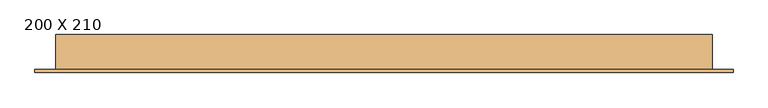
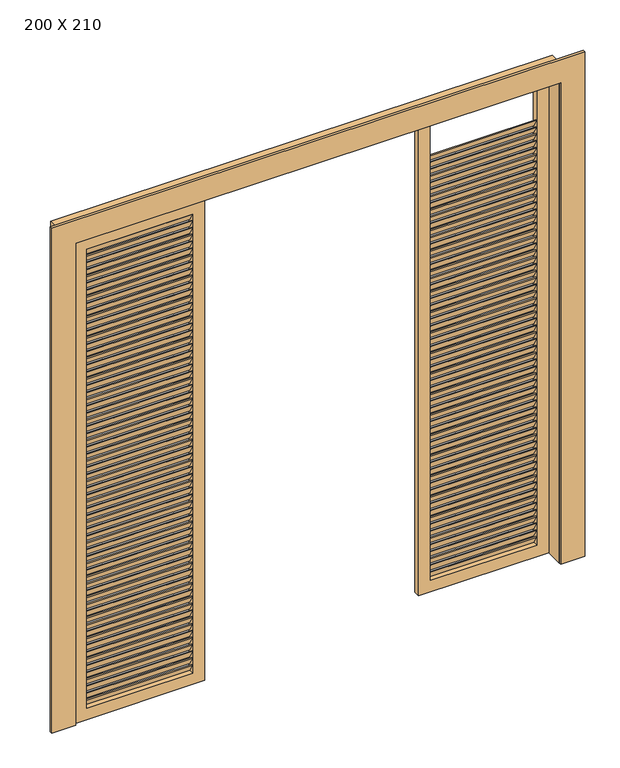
"""IFC4 building model written with IfcOpenShell, lengths in millimetres: door geometry, PORTA VENEZIANA DE CORRER - 4 FOLHAS : 200 X 210."""

from ifc_helpers import new_model, si_unit, frame, origin, place, context, project, spatial, polyline, outline, extrude, source, transform, mapped, element, save


def door_200_x_210_0d7408c9(model_context):
    return source(origin(), model_context, "Body", "SweptSolid", [
        extrude(outline(polyline([(21.9958714, 1866.1363636), (1.9958714, 1901.1363636), (6.9958714, 1901.1363636), (26.9958714, 1866.1363636), (21.9958714, 1866.1363636)])), frame((695.6608739, 0.0, 0.0), z_axis=(1.0, 0.0, 0.0), x_axis=(0.0, 1.0, 0.0)), (0.0, 0.0, 1.0), 437.5),
        extrude(outline(polyline([(21.9958714, 1836.3636364), (1.9958714, 1871.3636364), (6.9958714, 1871.3636364), (26.9958714, 1836.3636364), (21.9958714, 1836.3636364)])), frame((695.6608739, 0.0, 0.0), z_axis=(1.0, 0.0, 0.0), x_axis=(0.0, 1.0, 0.0)), (0.0, 0.0, 1.0), 437.5),
        extrude(outline(polyline([(21.9958714, 1806.5909091), (1.9958714, 1841.5909091), (6.9958714, 1841.5909091), (26.9958714, 1806.5909091), (21.9958714, 1806.5909091)])), frame((695.6608739, 0.0, 0.0), z_axis=(1.0, 0.0, 0.0), x_axis=(0.0, 1.0, 0.0)), (0.0, 0.0, 1.0), 437.5),
        extrude(outline(polyline([(21.9958714, 1776.8181818), (1.9958714, 1811.8181818), (6.9958714, 1811.8181818), (26.9958714, 1776.8181818), (21.9958714, 1776.8181818)])), frame((695.6608739, 0.0, 0.0), z_axis=(1.0, 0.0, 0.0), x_axis=(0.0, 1.0, 0.0)), (0.0, 0.0, 1.0), 437.5),
        extrude(outline(polyline([(21.9958714, 1747.0454545), (1.9958714, 1782.0454545), (6.9958714, 1782.0454545), (26.9958714, 1747.0454545), (21.9958714, 1747.0454545)])), frame((695.6608739, 0.0, 0.0), z_axis=(1.0, 0.0, 0.0), x_axis=(0.0, 1.0, 0.0)), (0.0, 0.0, 1.0), 437.5),
        extrude(outline(polyline([(21.9958714, 1717.2727273), (1.9958714, 1752.2727273), (6.9958714, 1752.2727273), (26.9958714, 1717.2727273), (21.9958714, 1717.2727273)])), frame((695.6608739, 0.0, 0.0), z_axis=(1.0, 0.0, 0.0), x_axis=(0.0, 1.0, 0.0)), (0.0, 0.0, 1.0), 437.5),
        extrude(outline(polyline([(21.9958714, 1687.5), (1.9958714, 1722.5), (6.9958714, 1722.5), (26.9958714, 1687.5), (21.9958714, 1687.5)])), frame((695.6608739, 0.0, 0.0), z_axis=(1.0, 0.0, 0.0), x_axis=(0.0, 1.0, 0.0)), (0.0, 0.0, 1.0), 437.5),
        extrude(outline(polyline([(21.9958714, 1657.7272727), (1.9958714, 1692.7272727), (6.9958714, 1692.7272727), (26.9958714, 1657.7272727), (21.9958714, 1657.7272727)])), frame((695.6608739, 0.0, 0.0), z_axis=(1.0, 0.0, 0.0), x_axis=(0.0, 1.0, 0.0)), (0.0, 0.0, 1.0), 437.5),
        extrude(outline(polyline([(21.9958714, 1627.9545455), (1.9958714, 1662.9545455), (6.9958714, 1662.9545455), (26.9958714, 1627.9545455), (21.9958714, 1627.9545455)])), frame((695.6608739, 0.0, 0.0), z_axis=(1.0, 0.0, 0.0), x_axis=(0.0, 1.0, 0.0)), (0.0, 0.0, 1.0), 437.5),
        extrude(outline(polyline([(21.9958714, 1598.1818182), (1.9958714, 1633.1818182), (6.9958714, 1633.1818182), (26.9958714, 1598.1818182), (21.9958714, 1598.1818182)])), frame((695.6608739, 0.0, 0.0), z_axis=(1.0, 0.0, 0.0), x_axis=(0.0, 1.0, 0.0)), (0.0, 0.0, 1.0), 437.5),
        extrude(outline(polyline([(21.9958714, 1568.4090909), (1.9958714, 1603.4090909), (6.9958714, 1603.4090909), (26.9958714, 1568.4090909), (21.9958714, 1568.4090909)])), frame((695.6608739, 0.0, 0.0), z_axis=(1.0, 0.0, 0.0), x_axis=(0.0, 1.0, 0.0)), (0.0, 0.0, 1.0), 437.5),
        extrude(outline(polyline([(21.9958714, 1538.6363636), (1.9958714, 1573.6363636), (6.9958714, 1573.6363636), (26.9958714, 1538.6363636), (21.9958714, 1538.6363636)])), frame((695.6608739, 0.0, 0.0), z_axis=(1.0, 0.0, 0.0), x_axis=(0.0, 1.0, 0.0)), (0.0, 0.0, 1.0), 437.5),
        extrude(outline(polyline([(21.9958714, 1508.8636364), (1.9958714, 1543.8636364), (6.9958714, 1543.8636364), (26.9958714, 1508.8636364), (21.9958714, 1508.8636364)])), frame((695.6608739, 0.0, 0.0), z_axis=(1.0, 0.0, 0.0), x_axis=(0.0, 1.0, 0.0)), (0.0, 0.0, 1.0), 437.5),
        extrude(outline(polyline([(21.9958714, 1479.0909091), (1.9958714, 1514.0909091), (6.9958714, 1514.0909091), (26.9958714, 1479.0909091), (21.9958714, 1479.0909091)])), frame((695.6608739, 0.0, 0.0), z_axis=(1.0, 0.0, 0.0), x_axis=(0.0, 1.0, 0.0)), (0.0, 0.0, 1.0), 437.5),
        extrude(outline(polyline([(21.9958714, 1449.3181818), (1.9958714, 1484.3181818), (6.9958714, 1484.3181818), (26.9958714, 1449.3181818), (21.9958714, 1449.3181818)])), frame((695.6608739, 0.0, 0.0), z_axis=(1.0, 0.0, 0.0), x_axis=(0.0, 1.0, 0.0)), (0.0, 0.0, 1.0), 437.5),
        extrude(outline(polyline([(21.9958714, 1419.5454545), (1.9958714, 1454.5454545), (6.9958714, 1454.5454545), (26.9958714, 1419.5454545), (21.9958714, 1419.5454545)])), frame((695.6608739, 0.0, 0.0), z_axis=(1.0, 0.0, 0.0), x_axis=(0.0, 1.0, 0.0)), (0.0, 0.0, 1.0), 437.5),
        extrude(outline(polyline([(21.9958714, 1389.7727273), (1.9958714, 1424.7727273), (6.9958714, 1424.7727273), (26.9958714, 1389.7727273), (21.9958714, 1389.7727273)])), frame((695.6608739, 0.0, 0.0), z_axis=(1.0, 0.0, 0.0), x_axis=(0.0, 1.0, 0.0)), (0.0, 0.0, 1.0), 437.5),
        extrude(outline(polyline([(21.9958714, 1360.0), (1.9958714, 1395.0), (6.9958714, 1395.0), (26.9958714, 1360.0), (21.9958714, 1360.0)])), frame((695.6608739, 0.0, 0.0), z_axis=(1.0, 0.0, 0.0), x_axis=(0.0, 1.0, 0.0)), (0.0, 0.0, 1.0), 437.5),
        extrude(outline(polyline([(21.9958714, 1330.2272727), (1.9958714, 1365.2272727), (6.9958714, 1365.2272727), (26.9958714, 1330.2272727), (21.9958714, 1330.2272727)])), frame((695.6608739, 0.0, 0.0), z_axis=(1.0, 0.0, 0.0), x_axis=(0.0, 1.0, 0.0)), (0.0, 0.0, 1.0), 437.5),
        extrude(outline(polyline([(21.9958714, 1300.4545455), (1.9958714, 1335.4545455), (6.9958714, 1335.4545455), (26.9958714, 1300.4545455), (21.9958714, 1300.4545455)])), frame((695.6608739, 0.0, 0.0), z_axis=(1.0, 0.0, 0.0), x_axis=(0.0, 1.0, 0.0)), (0.0, 0.0, 1.0), 437.5),
        extrude(outline(polyline([(21.9958714, 1270.6818182), (1.9958714, 1305.6818182), (6.9958714, 1305.6818182), (26.9958714, 1270.6818182), (21.9958714, 1270.6818182)])), frame((695.6608739, 0.0, 0.0), z_axis=(1.0, 0.0, 0.0), x_axis=(0.0, 1.0, 0.0)), (0.0, 0.0, 1.0), 437.5),
        extrude(outline(polyline([(21.9958714, 1240.9090909), (1.9958714, 1275.9090909), (6.9958714, 1275.9090909), (26.9958714, 1240.9090909), (21.9958714, 1240.9090909)])), frame((695.6608739, 0.0, 0.0), z_axis=(1.0, 0.0, 0.0), x_axis=(0.0, 1.0, 0.0)), (0.0, 0.0, 1.0), 437.5),
        extrude(outline(polyline([(21.9958714, 1211.1363636), (1.9958714, 1246.1363636), (6.9958714, 1246.1363636), (26.9958714, 1211.1363636), (21.9958714, 1211.1363636)])), frame((695.6608739, 0.0, 0.0), z_axis=(1.0, 0.0, 0.0), x_axis=(0.0, 1.0, 0.0)), (0.0, 0.0, 1.0), 437.5),
        extrude(outline(polyline([(21.9958714, 1181.3636364), (1.9958714, 1216.3636364), (6.9958714, 1216.3636364), (26.9958714, 1181.3636364), (21.9958714, 1181.3636364)])), frame((695.6608739, 0.0, 0.0), z_axis=(1.0, 0.0, 0.0), x_axis=(0.0, 1.0, 0.0)), (0.0, 0.0, 1.0), 437.5),
        extrude(outline(polyline([(21.9958714, 1151.5909091), (1.9958714, 1186.5909091), (6.9958714, 1186.5909091), (26.9958714, 1151.5909091), (21.9958714, 1151.5909091)])), frame((695.6608739, 0.0, 0.0), z_axis=(1.0, 0.0, 0.0), x_axis=(0.0, 1.0, 0.0)), (0.0, 0.0, 1.0), 437.5),
        extrude(outline(polyline([(21.9958714, 1121.8181818), (1.9958714, 1156.8181818), (6.9958714, 1156.8181818), (26.9958714, 1121.8181818), (21.9958714, 1121.8181818)])), frame((695.6608739, 0.0, 0.0), z_axis=(1.0, 0.0, 0.0), x_axis=(0.0, 1.0, 0.0)), (0.0, 0.0, 1.0), 437.5),
        extrude(outline(polyline([(21.9958714, 1092.0454545), (1.9958714, 1127.0454545), (6.9958714, 1127.0454545), (26.9958714, 1092.0454545), (21.9958714, 1092.0454545)])), frame((695.6608739, 0.0, 0.0), z_axis=(1.0, 0.0, 0.0), x_axis=(0.0, 1.0, 0.0)), (0.0, 0.0, 1.0), 437.5),
        extrude(outline(polyline([(21.9958714, 1062.2727273), (1.9958714, 1097.2727273), (6.9958714, 1097.2727273), (26.9958714, 1062.2727273), (21.9958714, 1062.2727273)])), frame((695.6608739, 0.0, 0.0), z_axis=(1.0, 0.0, 0.0), x_axis=(0.0, 1.0, 0.0)), (0.0, 0.0, 1.0), 437.5),
        extrude(outline(polyline([(21.9958714, 1032.5), (1.9958714, 1067.5), (6.9958714, 1067.5), (26.9958714, 1032.5), (21.9958714, 1032.5)])), frame((695.6608739, 0.0, 0.0), z_axis=(1.0, 0.0, 0.0), x_axis=(0.0, 1.0, 0.0)), (0.0, 0.0, 1.0), 437.5),
        extrude(outline(polyline([(21.9958714, 1002.7272727), (1.9958714, 1037.7272727), (6.9958714, 1037.7272727), (26.9958714, 1002.7272727), (21.9958714, 1002.7272727)])), frame((695.6608739, 0.0, 0.0), z_axis=(1.0, 0.0, 0.0), x_axis=(0.0, 1.0, 0.0)), (0.0, 0.0, 1.0), 437.5),
        extrude(outline(polyline([(21.9958714, 972.9545455), (1.9958714, 1007.9545455), (6.9958714, 1007.9545455), (26.9958714, 972.9545455), (21.9958714, 972.9545455)])), frame((695.6608739, 0.0, 0.0), z_axis=(1.0, 0.0, 0.0), x_axis=(0.0, 1.0, 0.0)), (0.0, 0.0, 1.0), 437.5),
        extrude(outline(polyline([(21.9958714, 943.1818182), (1.9958714, 978.1818182), (6.9958714, 978.1818182), (26.9958714, 943.1818182), (21.9958714, 943.1818182)])), frame((695.6608739, 0.0, 0.0), z_axis=(1.0, 0.0, 0.0), x_axis=(0.0, 1.0, 0.0)), (0.0, 0.0, 1.0), 437.5),
        extrude(outline(polyline([(21.9958714, 913.4090909), (1.9958714, 948.4090909), (6.9958714, 948.4090909), (26.9958714, 913.4090909), (21.9958714, 913.4090909)])), frame((695.6608739, 0.0, 0.0), z_axis=(1.0, 0.0, 0.0), x_axis=(0.0, 1.0, 0.0)), (0.0, 0.0, 1.0), 437.5),
        extrude(outline(polyline([(21.9958714, 883.6363636), (1.9958714, 918.6363636), (6.9958714, 918.6363636), (26.9958714, 883.6363636), (21.9958714, 883.6363636)])), frame((695.6608739, 0.0, 0.0), z_axis=(1.0, 0.0, 0.0), x_axis=(0.0, 1.0, 0.0)), (0.0, 0.0, 1.0), 437.5),
        extrude(outline(polyline([(21.9958714, 853.8636364), (1.9958714, 888.8636364), (6.9958714, 888.8636364), (26.9958714, 853.8636364), (21.9958714, 853.8636364)])), frame((695.6608739, 0.0, 0.0), z_axis=(1.0, 0.0, 0.0), x_axis=(0.0, 1.0, 0.0)), (0.0, 0.0, 1.0), 437.5),
        extrude(outline(polyline([(21.9958714, 824.0909091), (1.9958714, 859.0909091), (6.9958714, 859.0909091), (26.9958714, 824.0909091), (21.9958714, 824.0909091)])), frame((695.6608739, 0.0, 0.0), z_axis=(1.0, 0.0, 0.0), x_axis=(0.0, 1.0, 0.0)), (0.0, 0.0, 1.0), 437.5),
        extrude(outline(polyline([(21.9958714, 794.3181818), (1.9958714, 829.3181818), (6.9958714, 829.3181818), (26.9958714, 794.3181818), (21.9958714, 794.3181818)])), frame((695.6608739, 0.0, 0.0), z_axis=(1.0, 0.0, 0.0), x_axis=(0.0, 1.0, 0.0)), (0.0, 0.0, 1.0), 437.5),
        extrude(outline(polyline([(21.9958714, 764.5454545), (1.9958714, 799.5454545), (6.9958714, 799.5454545), (26.9958714, 764.5454545), (21.9958714, 764.5454545)])), frame((695.6608739, 0.0, 0.0), z_axis=(1.0, 0.0, 0.0), x_axis=(0.0, 1.0, 0.0)), (0.0, 0.0, 1.0), 437.5),
        extrude(outline(polyline([(21.9958714, 734.7727273), (1.9958714, 769.7727273), (6.9958714, 769.7727273), (26.9958714, 734.7727273), (21.9958714, 734.7727273)])), frame((695.6608739, 0.0, 0.0), z_axis=(1.0, 0.0, 0.0), x_axis=(0.0, 1.0, 0.0)), (0.0, 0.0, 1.0), 437.5),
        extrude(outline(polyline([(21.9958714, 705.0), (1.9958714, 740.0), (6.9958714, 740.0), (26.9958714, 705.0), (21.9958714, 705.0)])), frame((695.6608739, 0.0, 0.0), z_axis=(1.0, 0.0, 0.0), x_axis=(0.0, 1.0, 0.0)), (0.0, 0.0, 1.0), 437.5),
        extrude(outline(polyline([(21.9958714, 675.2272727), (1.9958714, 710.2272727), (6.9958714, 710.2272727), (26.9958714, 675.2272727), (21.9958714, 675.2272727)])), frame((695.6608739, 0.0, 0.0), z_axis=(1.0, 0.0, 0.0), x_axis=(0.0, 1.0, 0.0)), (0.0, 0.0, 1.0), 437.5),
        extrude(outline(polyline([(21.9958714, 645.4545455), (1.9958714, 680.4545455), (6.9958714, 680.4545455), (26.9958714, 645.4545455), (21.9958714, 645.4545455)])), frame((695.6608739, 0.0, 0.0), z_axis=(1.0, 0.0, 0.0), x_axis=(0.0, 1.0, 0.0)), (0.0, 0.0, 1.0), 437.5),
        extrude(outline(polyline([(21.9958714, 615.6818182), (1.9958714, 650.6818182), (6.9958714, 650.6818182), (26.9958714, 615.6818182), (21.9958714, 615.6818182)])), frame((695.6608739, 0.0, 0.0), z_axis=(1.0, 0.0, 0.0), x_axis=(0.0, 1.0, 0.0)), (0.0, 0.0, 1.0), 437.5),
        extrude(outline(polyline([(21.9958714, 585.9090909), (1.9958714, 620.9090909), (6.9958714, 620.9090909), (26.9958714, 585.9090909), (21.9958714, 585.9090909)])), frame((695.6608739, 0.0, 0.0), z_axis=(1.0, 0.0, 0.0), x_axis=(0.0, 1.0, 0.0)), (0.0, 0.0, 1.0), 437.5),
        extrude(outline(polyline([(21.9958714, 556.1363636), (1.9958714, 591.1363636), (6.9958714, 591.1363636), (26.9958714, 556.1363636), (21.9958714, 556.1363636)])), frame((695.6608739, 0.0, 0.0), z_axis=(1.0, 0.0, 0.0), x_axis=(0.0, 1.0, 0.0)), (0.0, 0.0, 1.0), 437.5),
        extrude(outline(polyline([(21.9958714, 526.3636364), (1.9958714, 561.3636364), (6.9958714, 561.3636364), (26.9958714, 526.3636364), (21.9958714, 526.3636364)])), frame((695.6608739, 0.0, 0.0), z_axis=(1.0, 0.0, 0.0), x_axis=(0.0, 1.0, 0.0)), (0.0, 0.0, 1.0), 437.5),
        extrude(outline(polyline([(21.9958714, 496.5909091), (1.9958714, 531.5909091), (6.9958714, 531.5909091), (26.9958714, 496.5909091), (21.9958714, 496.5909091)])), frame((695.6608739, 0.0, 0.0), z_axis=(1.0, 0.0, 0.0), x_axis=(0.0, 1.0, 0.0)), (0.0, 0.0, 1.0), 437.5),
        extrude(outline(polyline([(21.9958714, 466.8181818), (1.9958714, 501.8181818), (6.9958714, 501.8181818), (26.9958714, 466.8181818), (21.9958714, 466.8181818)])), frame((695.6608739, 0.0, 0.0), z_axis=(1.0, 0.0, 0.0), x_axis=(0.0, 1.0, 0.0)), (0.0, 0.0, 1.0), 437.5),
        extrude(outline(polyline([(21.9958714, 437.0454545), (1.9958714, 472.0454545), (6.9958714, 472.0454545), (26.9958714, 437.0454545), (21.9958714, 437.0454545)])), frame((695.6608739, 0.0, 0.0), z_axis=(1.0, 0.0, 0.0), x_axis=(0.0, 1.0, 0.0)), (0.0, 0.0, 1.0), 437.5),
        extrude(outline(polyline([(21.9958714, 407.2727273), (1.9958714, 442.2727273), (6.9958714, 442.2727273), (26.9958714, 407.2727273), (21.9958714, 407.2727273)])), frame((695.6608739, 0.0, 0.0), z_axis=(1.0, 0.0, 0.0), x_axis=(0.0, 1.0, 0.0)), (0.0, 0.0, 1.0), 437.5),
        extrude(outline(polyline([(21.9958714, 377.5), (1.9958714, 412.5), (6.9958714, 412.5), (26.9958714, 377.5), (21.9958714, 377.5)])), frame((695.6608739, 0.0, 0.0), z_axis=(1.0, 0.0, 0.0), x_axis=(0.0, 1.0, 0.0)), (0.0, 0.0, 1.0), 437.5),
        extrude(outline(polyline([(21.9958714, 347.7272727), (1.9958714, 382.7272727), (6.9958714, 382.7272727), (26.9958714, 347.7272727), (21.9958714, 347.7272727)])), frame((695.6608739, 0.0, 0.0), z_axis=(1.0, 0.0, 0.0), x_axis=(0.0, 1.0, 0.0)), (0.0, 0.0, 1.0), 437.5),
        extrude(outline(polyline([(21.9958714, 317.9545455), (1.9958714, 352.9545455), (6.9958714, 352.9545455), (26.9958714, 317.9545455), (21.9958714, 317.9545455)])), frame((695.6608739, 0.0, 0.0), z_axis=(1.0, 0.0, 0.0), x_axis=(0.0, 1.0, 0.0)), (0.0, 0.0, 1.0), 437.5),
        extrude(outline(polyline([(21.9958714, 288.1818182), (1.9958714, 323.1818182), (6.9958714, 323.1818182), (26.9958714, 288.1818182), (21.9958714, 288.1818182)])), frame((695.6608739, 0.0, 0.0), z_axis=(1.0, 0.0, 0.0), x_axis=(0.0, 1.0, 0.0)), (0.0, 0.0, 1.0), 437.5),
        extrude(outline(polyline([(21.9958714, 258.4090909), (1.9958714, 293.4090909), (6.9958714, 293.4090909), (26.9958714, 258.4090909), (21.9958714, 258.4090909)])), frame((695.6608739, 0.0, 0.0), z_axis=(1.0, 0.0, 0.0), x_axis=(0.0, 1.0, 0.0)), (0.0, 0.0, 1.0), 437.5),
        extrude(outline(polyline([(21.9958714, 228.6363636), (1.9958714, 263.6363636), (6.9958714, 263.6363636), (26.9958714, 228.6363636), (21.9958714, 228.6363636)])), frame((695.6608739, 0.0, 0.0), z_axis=(1.0, 0.0, 0.0), x_axis=(0.0, 1.0, 0.0)), (0.0, 0.0, 1.0), 437.5),
        extrude(outline(polyline([(21.9958714, 198.8636364), (1.9958714, 233.8636364), (6.9958714, 233.8636364), (26.9958714, 198.8636364), (21.9958714, 198.8636364)])), frame((695.6608739, 0.0, 0.0), z_axis=(1.0, 0.0, 0.0), x_axis=(0.0, 1.0, 0.0)), (0.0, 0.0, 1.0), 437.5),
        extrude(outline(polyline([(21.9958714, 169.0909091), (1.9958714, 204.0909091), (6.9958714, 204.0909091), (26.9958714, 169.0909091), (21.9958714, 169.0909091)])), frame((695.6608739, 0.0, 0.0), z_axis=(1.0, 0.0, 0.0), x_axis=(0.0, 1.0, 0.0)), (0.0, 0.0, 1.0), 437.5),
        extrude(outline(polyline([(21.9958714, 139.3181818), (1.9958714, 174.3181818), (6.9958714, 174.3181818), (26.9958714, 139.3181818), (21.9958714, 139.3181818)])), frame((695.6608739, 0.0, 0.0), z_axis=(1.0, 0.0, 0.0), x_axis=(0.0, 1.0, 0.0)), (0.0, 0.0, 1.0), 437.5),
        extrude(outline(polyline([(21.9958714, 109.5454545), (1.9958714, 144.5454545), (6.9958714, 144.5454545), (26.9958714, 109.5454545), (21.9958714, 109.5454545)])), frame((695.6608739, 0.0, 0.0), z_axis=(1.0, 0.0, 0.0), x_axis=(0.0, 1.0, 0.0)), (0.0, 0.0, 1.0), 437.5),
        extrude(outline(polyline([(21.9958714, 79.7727273), (1.9958714, 114.7727273), (6.9958714, 114.7727273), (26.9958714, 79.7727273), (21.9958714, 79.7727273)])), frame((695.6608739, 0.0, 0.0), z_axis=(1.0, 0.0, 0.0), x_axis=(0.0, 1.0, 0.0)), (0.0, 0.0, 1.0), 437.5),
        extrude(outline(polyline([(21.9958714, 2015.0), (1.9958714, 2050.0), (6.9958714, 2050.0), (26.9958714, 2015.0), (21.9958714, 2015.0)])), frame((695.6608739, 0.0, 0.0), z_axis=(1.0, 0.0, 0.0), x_axis=(0.0, 1.0, 0.0)), (0.0, 0.0, 1.0), 437.5),
        extrude(outline(polyline([(21.9958714, 50.0), (1.9958714, 85.0), (6.9958714, 85.0), (26.9958714, 50.0), (21.9958714, 50.0)])), frame((695.6608739, 0.0, 0.0), z_axis=(1.0, 0.0, 0.0), x_axis=(0.0, 1.0, 0.0)), (0.0, 0.0, 1.0), 437.5),
        extrude(outline(polyline([(2100.0, 645.6608739), (0.0, 645.6608739), (0.0, 1183.1608739), (2100.0, 1183.1608739), (2100.0, 645.6608739)]), holes=[polyline([(2050.0, 695.6608739), (2050.0, 1133.1608739), (50.0, 1133.1608739), (50.0, 695.6608739), (2050.0, 695.6608739)])]), frame((0.0, 1.9958714, 0.0), z_axis=(0.0, 1.0, 0.0), x_axis=(0.0, 0.0, 1.0)), (0.0, 0.0, 1.0), 25.0),
        extrude(outline(polyline([(-53.0041286, 1985.2272727), (-73.0041286, 2020.2272727), (-68.0041286, 2020.2272727), (-48.0041286, 1985.2272727), (-53.0041286, 1985.2272727)])), frame((-766.8391261, 0.0, 0.0), z_axis=(1.0, 0.0, 0.0), x_axis=(0.0, 1.0, 0.0)), (0.0, 0.0, 1.0), 437.5),
        extrude(outline(polyline([(-53.0041286, 1955.4545455), (-73.0041286, 1990.4545455), (-68.0041286, 1990.4545455), (-48.0041286, 1955.4545455), (-53.0041286, 1955.4545455)])), frame((-766.8391261, 0.0, 0.0), z_axis=(1.0, 0.0, 0.0), x_axis=(0.0, 1.0, 0.0)), (0.0, 0.0, 1.0), 437.5),
        extrude(outline(polyline([(-53.0041286, 1925.6818182), (-73.0041286, 1960.6818182), (-68.0041286, 1960.6818182), (-48.0041286, 1925.6818182), (-53.0041286, 1925.6818182)])), frame((-766.8391261, 0.0, 0.0), z_axis=(1.0, 0.0, 0.0), x_axis=(0.0, 1.0, 0.0)), (0.0, 0.0, 1.0), 437.5),
        extrude(outline(polyline([(-53.0041286, 1895.9090909), (-73.0041286, 1930.9090909), (-68.0041286, 1930.9090909), (-48.0041286, 1895.9090909), (-53.0041286, 1895.9090909)])), frame((-766.8391261, 0.0, 0.0), z_axis=(1.0, 0.0, 0.0), x_axis=(0.0, 1.0, 0.0)), (0.0, 0.0, 1.0), 437.5),
        extrude(outline(polyline([(-53.0041286, 1866.1363636), (-73.0041286, 1901.1363636), (-68.0041286, 1901.1363636), (-48.0041286, 1866.1363636), (-53.0041286, 1866.1363636)])), frame((-766.8391261, 0.0, 0.0), z_axis=(1.0, 0.0, 0.0), x_axis=(0.0, 1.0, 0.0)), (0.0, 0.0, 1.0), 437.5),
        extrude(outline(polyline([(-53.0041286, 1836.3636364), (-73.0041286, 1871.3636364), (-68.0041286, 1871.3636364), (-48.0041286, 1836.3636364), (-53.0041286, 1836.3636364)])), frame((-766.8391261, 0.0, 0.0), z_axis=(1.0, 0.0, 0.0), x_axis=(0.0, 1.0, 0.0)), (0.0, 0.0, 1.0), 437.5),
        extrude(outline(polyline([(-53.0041286, 1806.5909091), (-73.0041286, 1841.5909091), (-68.0041286, 1841.5909091), (-48.0041286, 1806.5909091), (-53.0041286, 1806.5909091)])), frame((-766.8391261, 0.0, 0.0), z_axis=(1.0, 0.0, 0.0), x_axis=(0.0, 1.0, 0.0)), (0.0, 0.0, 1.0), 437.5),
        extrude(outline(polyline([(-53.0041286, 1776.8181818), (-73.0041286, 1811.8181818), (-68.0041286, 1811.8181818), (-48.0041286, 1776.8181818), (-53.0041286, 1776.8181818)])), frame((-766.8391261, 0.0, 0.0), z_axis=(1.0, 0.0, 0.0), x_axis=(0.0, 1.0, 0.0)), (0.0, 0.0, 1.0), 437.5),
        extrude(outline(polyline([(-53.0041286, 1747.0454545), (-73.0041286, 1782.0454545), (-68.0041286, 1782.0454545), (-48.0041286, 1747.0454545), (-53.0041286, 1747.0454545)])), frame((-766.8391261, 0.0, 0.0), z_axis=(1.0, 0.0, 0.0), x_axis=(0.0, 1.0, 0.0)), (0.0, 0.0, 1.0), 437.5),
        extrude(outline(polyline([(-53.0041286, 1717.2727273), (-73.0041286, 1752.2727273), (-68.0041286, 1752.2727273), (-48.0041286, 1717.2727273), (-53.0041286, 1717.2727273)])), frame((-766.8391261, 0.0, 0.0), z_axis=(1.0, 0.0, 0.0), x_axis=(0.0, 1.0, 0.0)), (0.0, 0.0, 1.0), 437.5),
        extrude(outline(polyline([(-53.0041286, 1687.5), (-73.0041286, 1722.5), (-68.0041286, 1722.5), (-48.0041286, 1687.5), (-53.0041286, 1687.5)])), frame((-766.8391261, 0.0, 0.0), z_axis=(1.0, 0.0, 0.0), x_axis=(0.0, 1.0, 0.0)), (0.0, 0.0, 1.0), 437.5),
        extrude(outline(polyline([(-53.0041286, 1657.7272727), (-73.0041286, 1692.7272727), (-68.0041286, 1692.7272727), (-48.0041286, 1657.7272727), (-53.0041286, 1657.7272727)])), frame((-766.8391261, 0.0, 0.0), z_axis=(1.0, 0.0, 0.0), x_axis=(0.0, 1.0, 0.0)), (0.0, 0.0, 1.0), 437.5),
        extrude(outline(polyline([(-53.0041286, 1627.9545455), (-73.0041286, 1662.9545455), (-68.0041286, 1662.9545455), (-48.0041286, 1627.9545455), (-53.0041286, 1627.9545455)])), frame((-766.8391261, 0.0, 0.0), z_axis=(1.0, 0.0, 0.0), x_axis=(0.0, 1.0, 0.0)), (0.0, 0.0, 1.0), 437.5),
        extrude(outline(polyline([(-53.0041286, 1598.1818182), (-73.0041286, 1633.1818182), (-68.0041286, 1633.1818182), (-48.0041286, 1598.1818182), (-53.0041286, 1598.1818182)])), frame((-766.8391261, 0.0, 0.0), z_axis=(1.0, 0.0, 0.0), x_axis=(0.0, 1.0, 0.0)), (0.0, 0.0, 1.0), 437.5),
        extrude(outline(polyline([(-53.0041286, 1568.4090909), (-73.0041286, 1603.4090909), (-68.0041286, 1603.4090909), (-48.0041286, 1568.4090909), (-53.0041286, 1568.4090909)])), frame((-766.8391261, 0.0, 0.0), z_axis=(1.0, 0.0, 0.0), x_axis=(0.0, 1.0, 0.0)), (0.0, 0.0, 1.0), 437.5),
        extrude(outline(polyline([(-53.0041286, 1538.6363636), (-73.0041286, 1573.6363636), (-68.0041286, 1573.6363636), (-48.0041286, 1538.6363636), (-53.0041286, 1538.6363636)])), frame((-766.8391261, 0.0, 0.0), z_axis=(1.0, 0.0, 0.0), x_axis=(0.0, 1.0, 0.0)), (0.0, 0.0, 1.0), 437.5),
        extrude(outline(polyline([(-53.0041286, 1508.8636364), (-73.0041286, 1543.8636364), (-68.0041286, 1543.8636364), (-48.0041286, 1508.8636364), (-53.0041286, 1508.8636364)])), frame((-766.8391261, 0.0, 0.0), z_axis=(1.0, 0.0, 0.0), x_axis=(0.0, 1.0, 0.0)), (0.0, 0.0, 1.0), 437.5),
        extrude(outline(polyline([(-53.0041286, 1479.0909091), (-73.0041286, 1514.0909091), (-68.0041286, 1514.0909091), (-48.0041286, 1479.0909091), (-53.0041286, 1479.0909091)])), frame((-766.8391261, 0.0, 0.0), z_axis=(1.0, 0.0, 0.0), x_axis=(0.0, 1.0, 0.0)), (0.0, 0.0, 1.0), 437.5),
        extrude(outline(polyline([(-53.0041286, 1449.3181818), (-73.0041286, 1484.3181818), (-68.0041286, 1484.3181818), (-48.0041286, 1449.3181818), (-53.0041286, 1449.3181818)])), frame((-766.8391261, 0.0, 0.0), z_axis=(1.0, 0.0, 0.0), x_axis=(0.0, 1.0, 0.0)), (0.0, 0.0, 1.0), 437.5),
        extrude(outline(polyline([(-53.0041286, 1419.5454545), (-73.0041286, 1454.5454545), (-68.0041286, 1454.5454545), (-48.0041286, 1419.5454545), (-53.0041286, 1419.5454545)])), frame((-766.8391261, 0.0, 0.0), z_axis=(1.0, 0.0, 0.0), x_axis=(0.0, 1.0, 0.0)), (0.0, 0.0, 1.0), 437.5),
        extrude(outline(polyline([(-53.0041286, 1389.7727273), (-73.0041286, 1424.7727273), (-68.0041286, 1424.7727273), (-48.0041286, 1389.7727273), (-53.0041286, 1389.7727273)])), frame((-766.8391261, 0.0, 0.0), z_axis=(1.0, 0.0, 0.0), x_axis=(0.0, 1.0, 0.0)), (0.0, 0.0, 1.0), 437.5),
        extrude(outline(polyline([(-53.0041286, 1360.0), (-73.0041286, 1395.0), (-68.0041286, 1395.0), (-48.0041286, 1360.0), (-53.0041286, 1360.0)])), frame((-766.8391261, 0.0, 0.0), z_axis=(1.0, 0.0, 0.0), x_axis=(0.0, 1.0, 0.0)), (0.0, 0.0, 1.0), 437.5),
        extrude(outline(polyline([(-53.0041286, 1330.2272727), (-73.0041286, 1365.2272727), (-68.0041286, 1365.2272727), (-48.0041286, 1330.2272727), (-53.0041286, 1330.2272727)])), frame((-766.8391261, 0.0, 0.0), z_axis=(1.0, 0.0, 0.0), x_axis=(0.0, 1.0, 0.0)), (0.0, 0.0, 1.0), 437.5),
        extrude(outline(polyline([(-53.0041286, 1300.4545455), (-73.0041286, 1335.4545455), (-68.0041286, 1335.4545455), (-48.0041286, 1300.4545455), (-53.0041286, 1300.4545455)])), frame((-766.8391261, 0.0, 0.0), z_axis=(1.0, 0.0, 0.0), x_axis=(0.0, 1.0, 0.0)), (0.0, 0.0, 1.0), 437.5),
        extrude(outline(polyline([(-53.0041286, 1270.6818182), (-73.0041286, 1305.6818182), (-68.0041286, 1305.6818182), (-48.0041286, 1270.6818182), (-53.0041286, 1270.6818182)])), frame((-766.8391261, 0.0, 0.0), z_axis=(1.0, 0.0, 0.0), x_axis=(0.0, 1.0, 0.0)), (0.0, 0.0, 1.0), 437.5),
        extrude(outline(polyline([(-53.0041286, 1240.9090909), (-73.0041286, 1275.9090909), (-68.0041286, 1275.9090909), (-48.0041286, 1240.9090909), (-53.0041286, 1240.9090909)])), frame((-766.8391261, 0.0, 0.0), z_axis=(1.0, 0.0, 0.0), x_axis=(0.0, 1.0, 0.0)), (0.0, 0.0, 1.0), 437.5),
        extrude(outline(polyline([(-53.0041286, 1211.1363636), (-73.0041286, 1246.1363636), (-68.0041286, 1246.1363636), (-48.0041286, 1211.1363636), (-53.0041286, 1211.1363636)])), frame((-766.8391261, 0.0, 0.0), z_axis=(1.0, 0.0, 0.0), x_axis=(0.0, 1.0, 0.0)), (0.0, 0.0, 1.0), 437.5),
        extrude(outline(polyline([(-53.0041286, 1181.3636364), (-73.0041286, 1216.3636364), (-68.0041286, 1216.3636364), (-48.0041286, 1181.3636364), (-53.0041286, 1181.3636364)])), frame((-766.8391261, 0.0, 0.0), z_axis=(1.0, 0.0, 0.0), x_axis=(0.0, 1.0, 0.0)), (0.0, 0.0, 1.0), 437.5),
        extrude(outline(polyline([(-53.0041286, 1151.5909091), (-73.0041286, 1186.5909091), (-68.0041286, 1186.5909091), (-48.0041286, 1151.5909091), (-53.0041286, 1151.5909091)])), frame((-766.8391261, 0.0, 0.0), z_axis=(1.0, 0.0, 0.0), x_axis=(0.0, 1.0, 0.0)), (0.0, 0.0, 1.0), 437.5),
        extrude(outline(polyline([(-53.0041286, 1121.8181818), (-73.0041286, 1156.8181818), (-68.0041286, 1156.8181818), (-48.0041286, 1121.8181818), (-53.0041286, 1121.8181818)])), frame((-766.8391261, 0.0, 0.0), z_axis=(1.0, 0.0, 0.0), x_axis=(0.0, 1.0, 0.0)), (0.0, 0.0, 1.0), 437.5),
        extrude(outline(polyline([(-53.0041286, 1092.0454545), (-73.0041286, 1127.0454545), (-68.0041286, 1127.0454545), (-48.0041286, 1092.0454545), (-53.0041286, 1092.0454545)])), frame((-766.8391261, 0.0, 0.0), z_axis=(1.0, 0.0, 0.0), x_axis=(0.0, 1.0, 0.0)), (0.0, 0.0, 1.0), 437.5),
        extrude(outline(polyline([(-53.0041286, 1062.2727273), (-73.0041286, 1097.2727273), (-68.0041286, 1097.2727273), (-48.0041286, 1062.2727273), (-53.0041286, 1062.2727273)])), frame((-766.8391261, 0.0, 0.0), z_axis=(1.0, 0.0, 0.0), x_axis=(0.0, 1.0, 0.0)), (0.0, 0.0, 1.0), 437.5),
        extrude(outline(polyline([(-53.0041286, 1032.5), (-73.0041286, 1067.5), (-68.0041286, 1067.5), (-48.0041286, 1032.5), (-53.0041286, 1032.5)])), frame((-766.8391261, 0.0, 0.0), z_axis=(1.0, 0.0, 0.0), x_axis=(0.0, 1.0, 0.0)), (0.0, 0.0, 1.0), 437.5),
        extrude(outline(polyline([(-53.0041286, 1002.7272727), (-73.0041286, 1037.7272727), (-68.0041286, 1037.7272727), (-48.0041286, 1002.7272727), (-53.0041286, 1002.7272727)])), frame((-766.8391261, 0.0, 0.0), z_axis=(1.0, 0.0, 0.0), x_axis=(0.0, 1.0, 0.0)), (0.0, 0.0, 1.0), 437.5),
        extrude(outline(polyline([(-53.0041286, 972.9545455), (-73.0041286, 1007.9545455), (-68.0041286, 1007.9545455), (-48.0041286, 972.9545455), (-53.0041286, 972.9545455)])), frame((-766.8391261, 0.0, 0.0), z_axis=(1.0, 0.0, 0.0), x_axis=(0.0, 1.0, 0.0)), (0.0, 0.0, 1.0), 437.5),
        extrude(outline(polyline([(-53.0041286, 943.1818182), (-73.0041286, 978.1818182), (-68.0041286, 978.1818182), (-48.0041286, 943.1818182), (-53.0041286, 943.1818182)])), frame((-766.8391261, 0.0, 0.0), z_axis=(1.0, 0.0, 0.0), x_axis=(0.0, 1.0, 0.0)), (0.0, 0.0, 1.0), 437.5),
        extrude(outline(polyline([(-53.0041286, 913.4090909), (-73.0041286, 948.4090909), (-68.0041286, 948.4090909), (-48.0041286, 913.4090909), (-53.0041286, 913.4090909)])), frame((-766.8391261, 0.0, 0.0), z_axis=(1.0, 0.0, 0.0), x_axis=(0.0, 1.0, 0.0)), (0.0, 0.0, 1.0), 437.5),
        extrude(outline(polyline([(-53.0041286, 883.6363636), (-73.0041286, 918.6363636), (-68.0041286, 918.6363636), (-48.0041286, 883.6363636), (-53.0041286, 883.6363636)])), frame((-766.8391261, 0.0, 0.0), z_axis=(1.0, 0.0, 0.0), x_axis=(0.0, 1.0, 0.0)), (0.0, 0.0, 1.0), 437.5),
        extrude(outline(polyline([(-53.0041286, 853.8636364), (-73.0041286, 888.8636364), (-68.0041286, 888.8636364), (-48.0041286, 853.8636364), (-53.0041286, 853.8636364)])), frame((-766.8391261, 0.0, 0.0), z_axis=(1.0, 0.0, 0.0), x_axis=(0.0, 1.0, 0.0)), (0.0, 0.0, 1.0), 437.5),
        extrude(outline(polyline([(-53.0041286, 824.0909091), (-73.0041286, 859.0909091), (-68.0041286, 859.0909091), (-48.0041286, 824.0909091), (-53.0041286, 824.0909091)])), frame((-766.8391261, 0.0, 0.0), z_axis=(1.0, 0.0, 0.0), x_axis=(0.0, 1.0, 0.0)), (0.0, 0.0, 1.0), 437.5),
        extrude(outline(polyline([(-53.0041286, 794.3181818), (-73.0041286, 829.3181818), (-68.0041286, 829.3181818), (-48.0041286, 794.3181818), (-53.0041286, 794.3181818)])), frame((-766.8391261, 0.0, 0.0), z_axis=(1.0, 0.0, 0.0), x_axis=(0.0, 1.0, 0.0)), (0.0, 0.0, 1.0), 437.5),
        extrude(outline(polyline([(-53.0041286, 764.5454545), (-73.0041286, 799.5454545), (-68.0041286, 799.5454545), (-48.0041286, 764.5454545), (-53.0041286, 764.5454545)])), frame((-766.8391261, 0.0, 0.0), z_axis=(1.0, 0.0, 0.0), x_axis=(0.0, 1.0, 0.0)), (0.0, 0.0, 1.0), 437.5),
        extrude(outline(polyline([(-53.0041286, 734.7727273), (-73.0041286, 769.7727273), (-68.0041286, 769.7727273), (-48.0041286, 734.7727273), (-53.0041286, 734.7727273)])), frame((-766.8391261, 0.0, 0.0), z_axis=(1.0, 0.0, 0.0), x_axis=(0.0, 1.0, 0.0)), (0.0, 0.0, 1.0), 437.5),
        extrude(outline(polyline([(-53.0041286, 705.0), (-73.0041286, 740.0), (-68.0041286, 740.0), (-48.0041286, 705.0), (-53.0041286, 705.0)])), frame((-766.8391261, 0.0, 0.0), z_axis=(1.0, 0.0, 0.0), x_axis=(0.0, 1.0, 0.0)), (0.0, 0.0, 1.0), 437.5),
        extrude(outline(polyline([(-53.0041286, 675.2272727), (-73.0041286, 710.2272727), (-68.0041286, 710.2272727), (-48.0041286, 675.2272727), (-53.0041286, 675.2272727)])), frame((-766.8391261, 0.0, 0.0), z_axis=(1.0, 0.0, 0.0), x_axis=(0.0, 1.0, 0.0)), (0.0, 0.0, 1.0), 437.5),
        extrude(outline(polyline([(-53.0041286, 645.4545455), (-73.0041286, 680.4545455), (-68.0041286, 680.4545455), (-48.0041286, 645.4545455), (-53.0041286, 645.4545455)])), frame((-766.8391261, 0.0, 0.0), z_axis=(1.0, 0.0, 0.0), x_axis=(0.0, 1.0, 0.0)), (0.0, 0.0, 1.0), 437.5),
        extrude(outline(polyline([(-53.0041286, 615.6818182), (-73.0041286, 650.6818182), (-68.0041286, 650.6818182), (-48.0041286, 615.6818182), (-53.0041286, 615.6818182)])), frame((-766.8391261, 0.0, 0.0), z_axis=(1.0, 0.0, 0.0), x_axis=(0.0, 1.0, 0.0)), (0.0, 0.0, 1.0), 437.5),
        extrude(outline(polyline([(-53.0041286, 585.9090909), (-73.0041286, 620.9090909), (-68.0041286, 620.9090909), (-48.0041286, 585.9090909), (-53.0041286, 585.9090909)])), frame((-766.8391261, 0.0, 0.0), z_axis=(1.0, 0.0, 0.0), x_axis=(0.0, 1.0, 0.0)), (0.0, 0.0, 1.0), 437.5),
        extrude(outline(polyline([(-53.0041286, 556.1363636), (-73.0041286, 591.1363636), (-68.0041286, 591.1363636), (-48.0041286, 556.1363636), (-53.0041286, 556.1363636)])), frame((-766.8391261, 0.0, 0.0), z_axis=(1.0, 0.0, 0.0), x_axis=(0.0, 1.0, 0.0)), (0.0, 0.0, 1.0), 437.5),
        extrude(outline(polyline([(-53.0041286, 526.3636364), (-73.0041286, 561.3636364), (-68.0041286, 561.3636364), (-48.0041286, 526.3636364), (-53.0041286, 526.3636364)])), frame((-766.8391261, 0.0, 0.0), z_axis=(1.0, 0.0, 0.0), x_axis=(0.0, 1.0, 0.0)), (0.0, 0.0, 1.0), 437.5),
        extrude(outline(polyline([(-53.0041286, 496.5909091), (-73.0041286, 531.5909091), (-68.0041286, 531.5909091), (-48.0041286, 496.5909091), (-53.0041286, 496.5909091)])), frame((-766.8391261, 0.0, 0.0), z_axis=(1.0, 0.0, 0.0), x_axis=(0.0, 1.0, 0.0)), (0.0, 0.0, 1.0), 437.5),
        extrude(outline(polyline([(-53.0041286, 466.8181818), (-73.0041286, 501.8181818), (-68.0041286, 501.8181818), (-48.0041286, 466.8181818), (-53.0041286, 466.8181818)])), frame((-766.8391261, 0.0, 0.0), z_axis=(1.0, 0.0, 0.0), x_axis=(0.0, 1.0, 0.0)), (0.0, 0.0, 1.0), 437.5),
        extrude(outline(polyline([(-53.0041286, 437.0454545), (-73.0041286, 472.0454545), (-68.0041286, 472.0454545), (-48.0041286, 437.0454545), (-53.0041286, 437.0454545)])), frame((-766.8391261, 0.0, 0.0), z_axis=(1.0, 0.0, 0.0), x_axis=(0.0, 1.0, 0.0)), (0.0, 0.0, 1.0), 437.5),
        extrude(outline(polyline([(-53.0041286, 407.2727273), (-73.0041286, 442.2727273), (-68.0041286, 442.2727273), (-48.0041286, 407.2727273), (-53.0041286, 407.2727273)])), frame((-766.8391261, 0.0, 0.0), z_axis=(1.0, 0.0, 0.0), x_axis=(0.0, 1.0, 0.0)), (0.0, 0.0, 1.0), 437.5),
        extrude(outline(polyline([(-53.0041286, 377.5), (-73.0041286, 412.5), (-68.0041286, 412.5), (-48.0041286, 377.5), (-53.0041286, 377.5)])), frame((-766.8391261, 0.0, 0.0), z_axis=(1.0, 0.0, 0.0), x_axis=(0.0, 1.0, 0.0)), (0.0, 0.0, 1.0), 437.5),
        extrude(outline(polyline([(-53.0041286, 347.7272727), (-73.0041286, 382.7272727), (-68.0041286, 382.7272727), (-48.0041286, 347.7272727), (-53.0041286, 347.7272727)])), frame((-766.8391261, 0.0, 0.0), z_axis=(1.0, 0.0, 0.0), x_axis=(0.0, 1.0, 0.0)), (0.0, 0.0, 1.0), 437.5),
        extrude(outline(polyline([(-53.0041286, 317.9545455), (-73.0041286, 352.9545455), (-68.0041286, 352.9545455), (-48.0041286, 317.9545455), (-53.0041286, 317.9545455)])), frame((-766.8391261, 0.0, 0.0), z_axis=(1.0, 0.0, 0.0), x_axis=(0.0, 1.0, 0.0)), (0.0, 0.0, 1.0), 437.5),
        extrude(outline(polyline([(-53.0041286, 288.1818182), (-73.0041286, 323.1818182), (-68.0041286, 323.1818182), (-48.0041286, 288.1818182), (-53.0041286, 288.1818182)])), frame((-766.8391261, 0.0, 0.0), z_axis=(1.0, 0.0, 0.0), x_axis=(0.0, 1.0, 0.0)), (0.0, 0.0, 1.0), 437.5),
        extrude(outline(polyline([(-53.0041286, 258.4090909), (-73.0041286, 293.4090909), (-68.0041286, 293.4090909), (-48.0041286, 258.4090909), (-53.0041286, 258.4090909)])), frame((-766.8391261, 0.0, 0.0), z_axis=(1.0, 0.0, 0.0), x_axis=(0.0, 1.0, 0.0)), (0.0, 0.0, 1.0), 437.5),
        extrude(outline(polyline([(-53.0041286, 228.6363636), (-73.0041286, 263.6363636), (-68.0041286, 263.6363636), (-48.0041286, 228.6363636), (-53.0041286, 228.6363636)])), frame((-766.8391261, 0.0, 0.0), z_axis=(1.0, 0.0, 0.0), x_axis=(0.0, 1.0, 0.0)), (0.0, 0.0, 1.0), 437.5),
        extrude(outline(polyline([(-53.0041286, 198.8636364), (-73.0041286, 233.8636364), (-68.0041286, 233.8636364), (-48.0041286, 198.8636364), (-53.0041286, 198.8636364)])), frame((-766.8391261, 0.0, 0.0), z_axis=(1.0, 0.0, 0.0), x_axis=(0.0, 1.0, 0.0)), (0.0, 0.0, 1.0), 437.5),
        extrude(outline(polyline([(-53.0041286, 169.0909091), (-73.0041286, 204.0909091), (-68.0041286, 204.0909091), (-48.0041286, 169.0909091), (-53.0041286, 169.0909091)])), frame((-766.8391261, 0.0, 0.0), z_axis=(1.0, 0.0, 0.0), x_axis=(0.0, 1.0, 0.0)), (0.0, 0.0, 1.0), 437.5),
        extrude(outline(polyline([(-53.0041286, 139.3181818), (-73.0041286, 174.3181818), (-68.0041286, 174.3181818), (-48.0041286, 139.3181818), (-53.0041286, 139.3181818)])), frame((-766.8391261, 0.0, 0.0), z_axis=(1.0, 0.0, 0.0), x_axis=(0.0, 1.0, 0.0)), (0.0, 0.0, 1.0), 437.5),
        extrude(outline(polyline([(-53.0041286, 109.5454545), (-73.0041286, 144.5454545), (-68.0041286, 144.5454545), (-48.0041286, 109.5454545), (-53.0041286, 109.5454545)])), frame((-766.8391261, 0.0, 0.0), z_axis=(1.0, 0.0, 0.0), x_axis=(0.0, 1.0, 0.0)), (0.0, 0.0, 1.0), 437.5),
        extrude(outline(polyline([(-53.0041286, 79.7727273), (-73.0041286, 114.7727273), (-68.0041286, 114.7727273), (-48.0041286, 79.7727273), (-53.0041286, 79.7727273)])), frame((-766.8391261, 0.0, 0.0), z_axis=(1.0, 0.0, 0.0), x_axis=(0.0, 1.0, 0.0)), (0.0, 0.0, 1.0), 437.5),
        extrude(outline(polyline([(-53.0041286, 2015.0), (-73.0041286, 2050.0), (-68.0041286, 2050.0), (-48.0041286, 2015.0), (-53.0041286, 2015.0)])), frame((-766.8391261, 0.0, 0.0), z_axis=(1.0, 0.0, 0.0), x_axis=(0.0, 1.0, 0.0)), (0.0, 0.0, 1.0), 437.5),
        extrude(outline(polyline([(-53.0041286, 50.0), (-73.0041286, 85.0), (-68.0041286, 85.0), (-48.0041286, 50.0), (-53.0041286, 50.0)])), frame((-766.8391261, 0.0, 0.0), z_axis=(1.0, 0.0, 0.0), x_axis=(0.0, 1.0, 0.0)), (0.0, 0.0, 1.0), 437.5),
        extrude(outline(polyline([(2100.0, -279.3391261), (2100.0, -816.8391261), (0.0, -816.8391261), (0.0, -279.3391261), (2100.0, -279.3391261)]), holes=[polyline([(2050.0, -329.3391261), (50.0, -329.3391261), (50.0, -766.8391261), (2050.0, -766.8391261), (2050.0, -329.3391261)])]), frame((0.0, -73.0041286, 0.0), z_axis=(0.0, 1.0, 0.0), x_axis=(0.0, 0.0, 1.0)), (0.0, 0.0, 1.0), 25.0),
        extrude(outline(polyline([(2135.0, -851.8391261), (0.0, -851.8391261), (0.0, -816.8391261), (2100.0, -816.8391261), (2100.0, 1183.1608739), (0.0, 1183.1608739), (0.0, 1218.1608739), (2135.0, 1218.1608739), (2135.0, -851.8391261)])), frame((0.0, -73.0041286, 0.0), z_axis=(0.0, 1.0, 0.0), x_axis=(0.0, 0.0, 1.0)), (0.0, 0.0, 1.0), 110.0),
        extrude(outline(polyline([(2100.0, -816.8391261), (2100.0, 1183.1608739), (0.0, 1183.1608739), (0.0, 1283.1608739), (2200.0, 1283.1608739), (2200.0, -916.8391261), (0.0, -916.8391261), (0.0, -816.8391261), (2100.0, -816.8391261)])), frame((0.0, -83.0041286, 0.0), z_axis=(0.0, 1.0, 0.0), x_axis=(0.0, 0.0, 1.0)), (0.0, 0.0, 1.0), 10.0),
    ])


if __name__ == "__main__":
    model = new_model("IFC4")
    model_context = context("Model", 3, world=origin())
    ifc_project = project(units=[si_unit("LENGTHUNIT", "METRE", prefix="MILLI")], contexts=[model_context])
    site = spatial("IfcSite", under=ifc_project)
    building = spatial("IfcBuilding", under=site)
    placement = place(None, origin())
    door_200_x_210_shape = door_200_x_210_0d7408c9(model_context)
    element("IfcDoor", 1, ObjectType="PORTA VENEZIANA DE CORRER - 4 FOLHAS : 200 X 210", at=placement, inside=building, context=model_context, shape_type="MappedRepresentation", body=[
        mapped(door_200_x_210_shape, transform((0.0, 0.0, 0.0), x_axis=(1.0, 0.0, 0.0), y_axis=(0.0, 1.0, 0.0), z_axis=(0.0, 0.0, 1.0))),
    ])
    save(model, "model.ifc")
